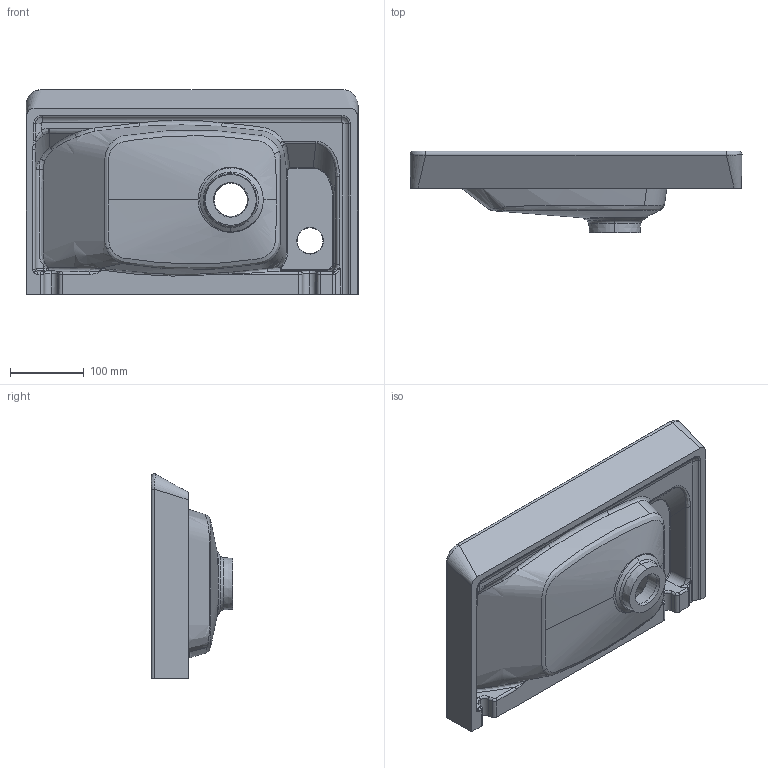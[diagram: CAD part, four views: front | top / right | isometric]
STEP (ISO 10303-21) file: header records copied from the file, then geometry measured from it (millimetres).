
FILE_DESCRIPTION (( 'STEP AP203' ), '1' );
FILE_NAME ('MY045-00CB00E-0000.STEP', '2022-04-20T07:32:03', ( '' ), ( '' ), 'SwSTEP 2.0', 'SolidWorks 2021', '' );
FILE_SCHEMA (( 'CONFIG_CONTROL_DESIGN' ));
Length unit declared in the file: millimetre
Products named in the file (1): MY045-00CB00E-0000
Bounding box: 449.84 x 110.5 x 277.18 mm (x, y, z)
Volume: 3253452.8 mm3; surface area: 389838.2 mm2
Topology: 1 solids, 1 shells, 177 faces, 597 edges, 420 vertices
Faces by surface type: bspline 90, cylinder 47, plane 25, cone 11, torus 4
Entity records: 26700 total; most frequent: CARTESIAN_POINT 22328, ORIENTED_EDGE 1188, EDGE_CURVE 594, DIRECTION 541, VERTEX_POINT 420, B_SPLINE_CURVE_WITH_KNOTS 296, AXIS2_PLACEMENT_3D 200, EDGE_LOOP 182
